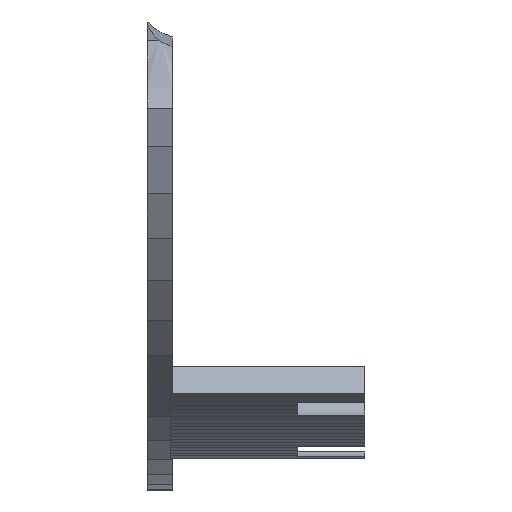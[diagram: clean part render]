
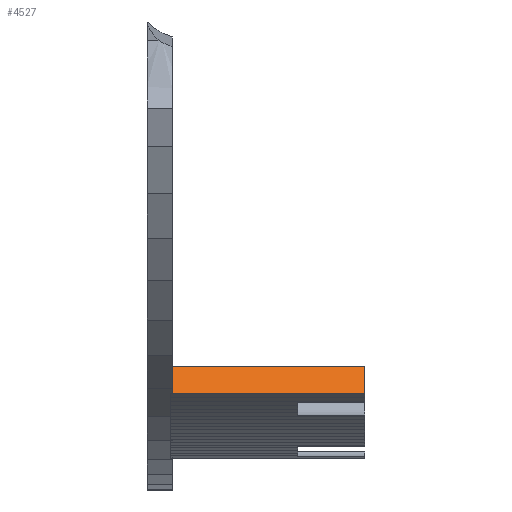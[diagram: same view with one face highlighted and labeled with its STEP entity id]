
A CAD part, front view. The second image highlights one B-rep face of the part: STEP entity #4527.
In plain terms, the highlighted planar face has unit normal (0, -0.819, 0.574).
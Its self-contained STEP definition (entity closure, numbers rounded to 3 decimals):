
#374 = PLANE('',#375);
#375 = AXIS2_PLACEMENT_3D('',#376,#377,#378);
#376 = CARTESIAN_POINT('',(39.,-68.702,-79.807));
#377 = DIRECTION('',(-0.,0.548,0.836));
#378 = DIRECTION('',(0.,0.836,-0.548));
#1399 = PLANE('',#1400);
#1400 = AXIS2_PLACEMENT_3D('',#1401,#1402,#1403);
#1401 = CARTESIAN_POINT('',(40.5,-59.387,-74.279));
#1402 = DIRECTION('',(1.,0.,0.));
#1403 = DIRECTION('',(-0.,0.,1.));
#2272 = VERTEX_POINT('',#2273);
#2273 = CARTESIAN_POINT('',(40.5,-68.235,-80.113));
#2294 = EDGE_CURVE('',#2272,#2295,#2297,.T.);
#2295 = VERTEX_POINT('',#2296);
#2296 = CARTESIAN_POINT('',(40.4,-68.235,-80.113));
#2297 = SURFACE_CURVE('',#2298,(#2302,#2308),.PCURVE_S1.);
#2298 = LINE('',#2299,#2300);
#2299 = CARTESIAN_POINT('',(39.7,-68.235,-80.113));
#2300 = VECTOR('',#2301,1.);
#2301 = DIRECTION('',(-1.,0.,-0.));
#2302 = PCURVE('',#374,#2303);
#2303 = DEFINITIONAL_REPRESENTATION('',(#2304),#2307);
#2304 = B_SPLINE_CURVE_WITH_KNOTS('',1,(#2305,#2306),.UNSPECIFIED.,.F.,
  .F.,(2,2),(-0.8,-0.7),.PIECEWISE_BEZIER_KNOTS.);
#2305 = CARTESIAN_POINT('',(0.559,-1.5));
#2306 = CARTESIAN_POINT('',(0.559,-1.4));
#2307 = ( GEOMETRIC_REPRESENTATION_CONTEXT(2) 
PARAMETRIC_REPRESENTATION_CONTEXT() REPRESENTATION_CONTEXT('2D SPACE',''
  ) );
#2308 = PCURVE('',#2309,#2314);
#2309 = PLANE('',#2310);
#2310 = AXIS2_PLACEMENT_3D('',#2311,#2312,#2313);
#2311 = CARTESIAN_POINT('',(40.4,-67.1,-78.493));
#2312 = DIRECTION('',(0.,0.819,-0.574));
#2313 = DIRECTION('',(0.,-0.574,-0.819));
#2314 = DEFINITIONAL_REPRESENTATION('',(#2315),#2318);
#2315 = B_SPLINE_CURVE_WITH_KNOTS('',1,(#2316,#2317),.UNSPECIFIED.,.F.,
  .F.,(2,2),(-0.8,-0.7),.PIECEWISE_BEZIER_KNOTS.);
#2316 = CARTESIAN_POINT('',(1.978,-0.1));
#2317 = CARTESIAN_POINT('',(1.978,0.));
#2318 = ( GEOMETRIC_REPRESENTATION_CONTEXT(2) 
PARAMETRIC_REPRESENTATION_CONTEXT() REPRESENTATION_CONTEXT('2D SPACE',''
  ) );
#2335 = PLANE('',#2336);
#2336 = AXIS2_PLACEMENT_3D('',#2337,#2338,#2339);
#2337 = CARTESIAN_POINT('',(40.4,-64.162,-81.329));
#2338 = DIRECTION('',(1.,0.,0.));
#2339 = DIRECTION('',(-0.,0.,1.));
#3738 = EDGE_CURVE('',#2272,#3739,#3741,.T.);
#3739 = VERTEX_POINT('',#3740);
#3740 = CARTESIAN_POINT('',(40.5,-67.1,-78.493));
#3741 = SURFACE_CURVE('',#3742,(#3746,#3752),.PCURVE_S1.);
#3742 = LINE('',#3743,#3744);
#3743 = CARTESIAN_POINT('',(40.5,-64.841,-75.267));
#3744 = VECTOR('',#3745,1.);
#3745 = DIRECTION('',(-0.,0.574,0.819));
#3746 = PCURVE('',#1399,#3747);
#3747 = DEFINITIONAL_REPRESENTATION('',(#3748),#3751);
#3748 = B_SPLINE_CURVE_WITH_KNOTS('',1,(#3749,#3750),.UNSPECIFIED.,.F.,
  .F.,(2,2),(-5.938,-3.938),.PIECEWISE_BEZIER_KNOTS.);
#3749 = CARTESIAN_POINT('',(-5.852,8.86));
#3750 = CARTESIAN_POINT('',(-4.214,7.713));
#3751 = ( GEOMETRIC_REPRESENTATION_CONTEXT(2) 
PARAMETRIC_REPRESENTATION_CONTEXT() REPRESENTATION_CONTEXT('2D SPACE',''
  ) );
#3752 = PCURVE('',#2309,#3753);
#3753 = DEFINITIONAL_REPRESENTATION('',(#3754),#3757);
#3754 = B_SPLINE_CURVE_WITH_KNOTS('',1,(#3755,#3756),.UNSPECIFIED.,.F.,
  .F.,(2,2),(-5.938,-3.938),.PIECEWISE_BEZIER_KNOTS.);
#3755 = CARTESIAN_POINT('',(2.,-0.1));
#3756 = CARTESIAN_POINT('',(0.,-0.1));
#3757 = ( GEOMETRIC_REPRESENTATION_CONTEXT(2) 
PARAMETRIC_REPRESENTATION_CONTEXT() REPRESENTATION_CONTEXT('2D SPACE',''
  ) );
#3774 = PLANE('',#3775);
#3775 = AXIS2_PLACEMENT_3D('',#3776,#3777,#3778);
#3776 = CARTESIAN_POINT('',(40.4,-66.777,-78.716));
#3777 = DIRECTION('',(0.,-0.568,-0.823));
#3778 = DIRECTION('',(0.,-0.823,0.568));
#4338 = EDGE_CURVE('',#2295,#4339,#4341,.T.);
#4339 = VERTEX_POINT('',#4340);
#4340 = CARTESIAN_POINT('',(40.4,-68.247,-80.131));
#4341 = SURFACE_CURVE('',#4342,(#4346,#4353),.PCURVE_S1.);
#4342 = LINE('',#4343,#4344);
#4343 = CARTESIAN_POINT('',(40.4,-67.1,-78.493));
#4344 = VECTOR('',#4345,1.);
#4345 = DIRECTION('',(0.,-0.574,-0.819));
#4346 = PCURVE('',#2335,#4347);
#4347 = DEFINITIONAL_REPRESENTATION('',(#4348),#4352);
#4348 = LINE('',#4349,#4350);
#4349 = CARTESIAN_POINT('',(2.836,2.938));
#4350 = VECTOR('',#4351,1.);
#4351 = DIRECTION('',(-0.819,0.574));
#4352 = ( GEOMETRIC_REPRESENTATION_CONTEXT(2) 
PARAMETRIC_REPRESENTATION_CONTEXT() REPRESENTATION_CONTEXT('2D SPACE',''
  ) );
#4353 = PCURVE('',#2309,#4354);
#4354 = DEFINITIONAL_REPRESENTATION('',(#4355),#4359);
#4355 = LINE('',#4356,#4357);
#4356 = CARTESIAN_POINT('',(0.,0.));
#4357 = VECTOR('',#4358,1.);
#4358 = DIRECTION('',(1.,0.));
#4359 = ( GEOMETRIC_REPRESENTATION_CONTEXT(2) 
PARAMETRIC_REPRESENTATION_CONTEXT() REPRESENTATION_CONTEXT('2D SPACE',''
  ) );
#4377 = PLANE('',#4378);
#4378 = AXIS2_PLACEMENT_3D('',#4379,#4380,#4381);
#4379 = CARTESIAN_POINT('',(40.4,-68.247,-80.131));
#4380 = DIRECTION('',(-0.,0.568,0.823));
#4381 = DIRECTION('',(0.,0.823,-0.568));
#4527 = ADVANCED_FACE('',(#4528),#2309,.F.);
#4528 = FACE_BOUND('',#4529,.F.);
#4529 = EDGE_LOOP('',(#4530,#4531,#4554,#4582,#4603,#4604));
#4530 = ORIENTED_EDGE('',*,*,#3738,.T.);
#4531 = ORIENTED_EDGE('',*,*,#4532,.T.);
#4532 = EDGE_CURVE('',#3739,#4533,#4535,.T.);
#4533 = VERTEX_POINT('',#4534);
#4534 = CARTESIAN_POINT('',(52.,-67.1,-78.493));
#4535 = SURFACE_CURVE('',#4536,(#4540,#4547),.PCURVE_S1.);
#4536 = LINE('',#4537,#4538);
#4537 = CARTESIAN_POINT('',(40.4,-67.1,-78.493));
#4538 = VECTOR('',#4539,1.);
#4539 = DIRECTION('',(1.,0.,0.));
#4540 = PCURVE('',#2309,#4541);
#4541 = DEFINITIONAL_REPRESENTATION('',(#4542),#4546);
#4542 = LINE('',#4543,#4544);
#4543 = CARTESIAN_POINT('',(0.,0.));
#4544 = VECTOR('',#4545,1.);
#4545 = DIRECTION('',(0.,-1.));
#4546 = ( GEOMETRIC_REPRESENTATION_CONTEXT(2) 
PARAMETRIC_REPRESENTATION_CONTEXT() REPRESENTATION_CONTEXT('2D SPACE',''
  ) );
#4547 = PCURVE('',#3774,#4548);
#4548 = DEFINITIONAL_REPRESENTATION('',(#4549),#4553);
#4549 = LINE('',#4550,#4551);
#4550 = CARTESIAN_POINT('',(0.393,0.));
#4551 = VECTOR('',#4552,1.);
#4552 = DIRECTION('',(0.,-1.));
#4553 = ( GEOMETRIC_REPRESENTATION_CONTEXT(2) 
PARAMETRIC_REPRESENTATION_CONTEXT() REPRESENTATION_CONTEXT('2D SPACE',''
  ) );
#4554 = ORIENTED_EDGE('',*,*,#4555,.T.);
#4555 = EDGE_CURVE('',#4533,#4556,#4558,.T.);
#4556 = VERTEX_POINT('',#4557);
#4557 = CARTESIAN_POINT('',(52.,-68.247,-80.131));
#4558 = SURFACE_CURVE('',#4559,(#4563,#4570),.PCURVE_S1.);
#4559 = LINE('',#4560,#4561);
#4560 = CARTESIAN_POINT('',(52.,-67.1,-78.493));
#4561 = VECTOR('',#4562,1.);
#4562 = DIRECTION('',(0.,-0.574,-0.819));
#4563 = PCURVE('',#2309,#4564);
#4564 = DEFINITIONAL_REPRESENTATION('',(#4565),#4569);
#4565 = LINE('',#4566,#4567);
#4566 = CARTESIAN_POINT('',(0.,-11.6));
#4567 = VECTOR('',#4568,1.);
#4568 = DIRECTION('',(1.,0.));
#4569 = ( GEOMETRIC_REPRESENTATION_CONTEXT(2) 
PARAMETRIC_REPRESENTATION_CONTEXT() REPRESENTATION_CONTEXT('2D SPACE',''
  ) );
#4570 = PCURVE('',#4571,#4576);
#4571 = PLANE('',#4572);
#4572 = AXIS2_PLACEMENT_3D('',#4573,#4574,#4575);
#4573 = CARTESIAN_POINT('',(52.,-64.162,-81.329));
#4574 = DIRECTION('',(1.,0.,0.));
#4575 = DIRECTION('',(-0.,0.,1.));
#4576 = DEFINITIONAL_REPRESENTATION('',(#4577),#4581);
#4577 = LINE('',#4578,#4579);
#4578 = CARTESIAN_POINT('',(2.836,2.938));
#4579 = VECTOR('',#4580,1.);
#4580 = DIRECTION('',(-0.819,0.574));
#4581 = ( GEOMETRIC_REPRESENTATION_CONTEXT(2) 
PARAMETRIC_REPRESENTATION_CONTEXT() REPRESENTATION_CONTEXT('2D SPACE',''
  ) );
#4582 = ORIENTED_EDGE('',*,*,#4583,.F.);
#4583 = EDGE_CURVE('',#4339,#4556,#4584,.T.);
#4584 = SURFACE_CURVE('',#4585,(#4589,#4596),.PCURVE_S1.);
#4585 = LINE('',#4586,#4587);
#4586 = CARTESIAN_POINT('',(40.4,-68.247,-80.131));
#4587 = VECTOR('',#4588,1.);
#4588 = DIRECTION('',(1.,0.,0.));
#4589 = PCURVE('',#2309,#4590);
#4590 = DEFINITIONAL_REPRESENTATION('',(#4591),#4595);
#4591 = LINE('',#4592,#4593);
#4592 = CARTESIAN_POINT('',(2.,0.));
#4593 = VECTOR('',#4594,1.);
#4594 = DIRECTION('',(0.,-1.));
#4595 = ( GEOMETRIC_REPRESENTATION_CONTEXT(2) 
PARAMETRIC_REPRESENTATION_CONTEXT() REPRESENTATION_CONTEXT('2D SPACE',''
  ) );
#4596 = PCURVE('',#4377,#4597);
#4597 = DEFINITIONAL_REPRESENTATION('',(#4598),#4602);
#4598 = LINE('',#4599,#4600);
#4599 = CARTESIAN_POINT('',(0.,0.));
#4600 = VECTOR('',#4601,1.);
#4601 = DIRECTION('',(0.,-1.));
#4602 = ( GEOMETRIC_REPRESENTATION_CONTEXT(2) 
PARAMETRIC_REPRESENTATION_CONTEXT() REPRESENTATION_CONTEXT('2D SPACE',''
  ) );
#4603 = ORIENTED_EDGE('',*,*,#4338,.F.);
#4604 = ORIENTED_EDGE('',*,*,#2294,.F.);
